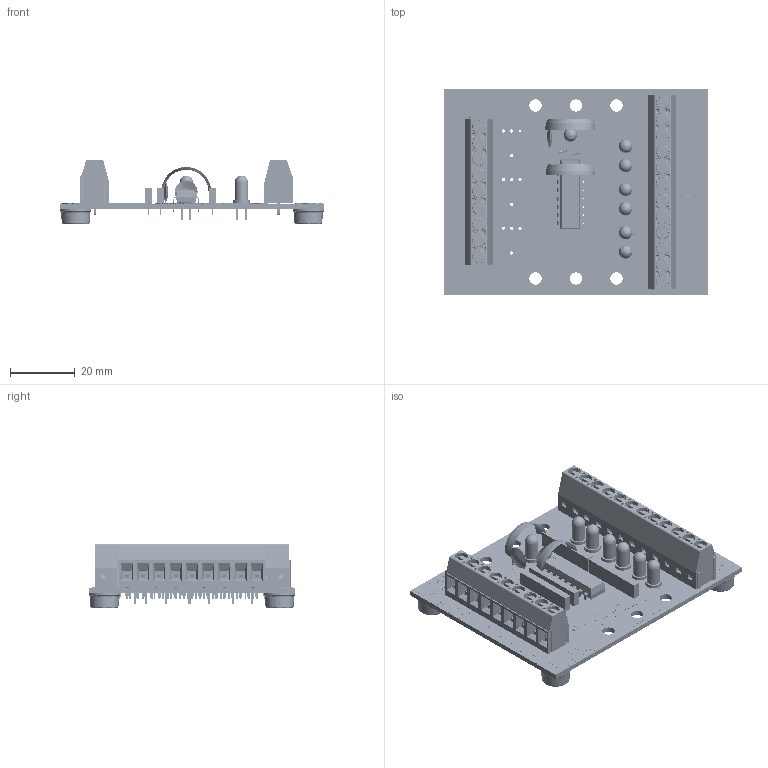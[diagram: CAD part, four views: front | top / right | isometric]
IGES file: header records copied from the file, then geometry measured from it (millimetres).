
Start section: SolidWorks IGES file using analytic representation for surfaces
Global section: file name: W:\end-user\products\buf\bufdni103\3dmodel\rev_a\render\bufdni103-ft_rev_a.igs; native system: SolidWorks 2018; preprocessor: SolidWorks 2018; author: leviroy; date: 220729.133204; units: inch
Bounding box: 81.28 x 63.5 x 19.97 mm (x, y, z)
Surface area: 35297.7 mm2 (no closed solid volume)
Topology: 0 solids, 0 shells, 9601 faces, 95830 edges, 95693 vertices
Faces by surface type: bspline 7587, revolution 2014
